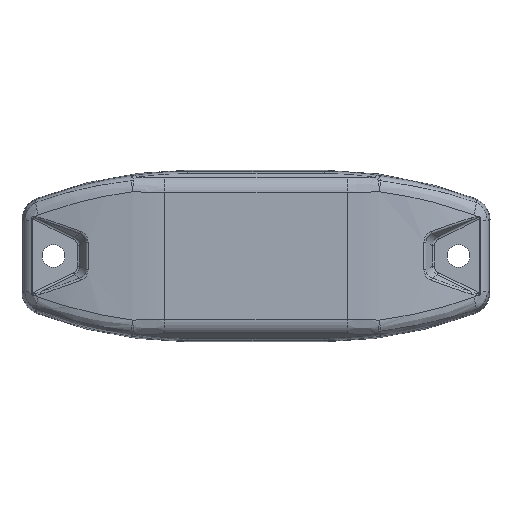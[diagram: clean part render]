
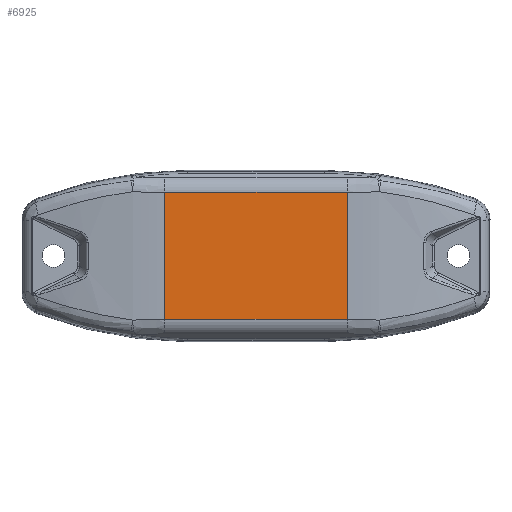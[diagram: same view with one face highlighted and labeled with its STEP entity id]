
A CAD part, top view. The second image highlights one B-rep face of the part: STEP entity #6925.
In plain terms, the highlighted planar face has unit normal (0, 0, 1).
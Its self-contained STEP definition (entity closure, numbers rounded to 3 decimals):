
#212=PLANE('',#7567);
#569=FACE_OUTER_BOUND('',#1031,.T.);
#1031=EDGE_LOOP('',(#5278,#5279,#5280,#5281));
#1920=LINE('',#15522,#2329);
#1922=LINE('',#15636,#2331);
#1923=LINE('',#15638,#2332);
#1924=LINE('',#15639,#2333);
#2329=VECTOR('',#8808,1.);
#2331=VECTOR('',#8820,1.);
#2332=VECTOR('',#8821,1.);
#2333=VECTOR('',#8822,1.);
#3105=VERTEX_POINT('',#15520);
#3106=VERTEX_POINT('',#15521);
#3110=VERTEX_POINT('',#15635);
#3111=VERTEX_POINT('',#15637);
#3901=EDGE_CURVE('',#3105,#3106,#1920,.T.);
#3908=EDGE_CURVE('',#3110,#3105,#1922,.T.);
#3909=EDGE_CURVE('',#3111,#3106,#1923,.T.);
#3910=EDGE_CURVE('',#3111,#3110,#1924,.T.);
#5278=ORIENTED_EDGE('',*,*,#3908,.T.);
#5279=ORIENTED_EDGE('',*,*,#3901,.T.);
#5280=ORIENTED_EDGE('',*,*,#3909,.F.);
#5281=ORIENTED_EDGE('',*,*,#3910,.T.);
#6925=ADVANCED_FACE('',(#569),#212,.T.);
#7567=AXIS2_PLACEMENT_3D('',#15634,#8818,#8819);
#8808=DIRECTION('',(1.,0.,0.));
#8818=DIRECTION('center_axis',(0.,0.,1.));
#8819=DIRECTION('ref_axis',(1.,0.,0.));
#8820=DIRECTION('',(0.,-1.,0.));
#8821=DIRECTION('',(0.,-1.,0.));
#8822=DIRECTION('',(-1.,0.,0.));
#15520=CARTESIAN_POINT('',(-8.,-11.142,2.));
#15521=CARTESIAN_POINT('',(24.,-11.142,2.));
#15522=CARTESIAN_POINT('',(0.,-11.142,2.));
#15634=CARTESIAN_POINT('Origin',(0.,0.,2.));
#15635=CARTESIAN_POINT('',(-8.,11.142,2.));
#15636=CARTESIAN_POINT('',(-8.,0.,2.));
#15637=CARTESIAN_POINT('',(24.,11.142,2.));
#15638=CARTESIAN_POINT('',(24.,0.,2.));
#15639=CARTESIAN_POINT('',(8.,11.142,2.));
